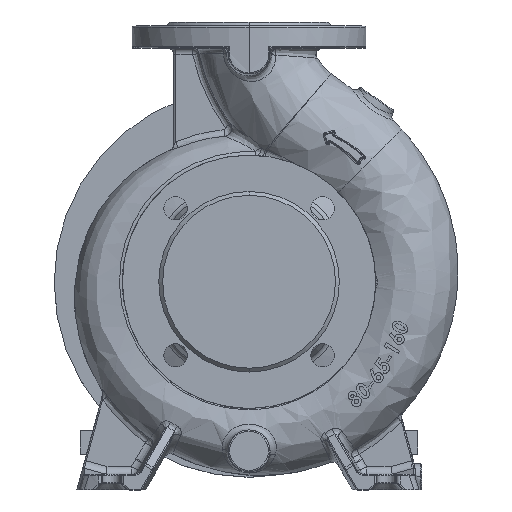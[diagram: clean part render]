
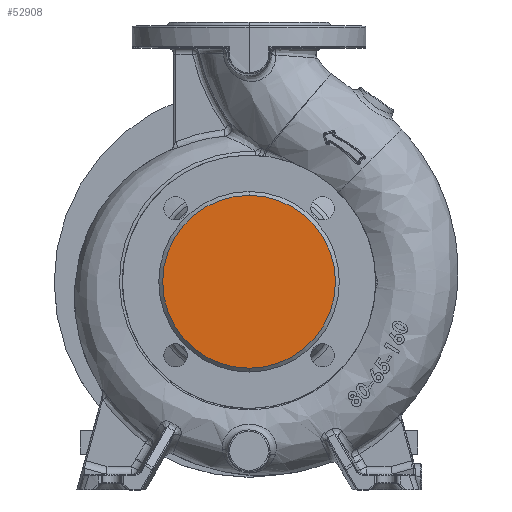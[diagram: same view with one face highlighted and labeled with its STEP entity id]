
A CAD part, top view. The second image highlights one B-rep face of the part: STEP entity #52908.
In plain terms, the highlighted planar face has unit normal (0, 0, 1).
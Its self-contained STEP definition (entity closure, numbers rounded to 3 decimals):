
#6398 = EDGE_CURVE ( 'NONE', #39030, #15525, #24929, .T. ) ;
#12544 = DIRECTION ( 'NONE',  ( 0., 0., -1. ) ) ;
#12766 = CARTESIAN_POINT ( 'NONE',  ( 0., 0., 100. ) ) ;
#13916 = CARTESIAN_POINT ( 'NONE',  ( 0., 66.5, 100. ) ) ;
#15473 = PLANE ( 'NONE',  #17838 ) ;
#15525 = VERTEX_POINT ( 'NONE', #13916 ) ;
#16115 = DIRECTION ( 'NONE',  ( 0., 0., -1. ) ) ;
#16501 = CIRCLE ( 'NONE', #20605, 66.5 ) ;
#17838 = AXIS2_PLACEMENT_3D ( 'NONE', #50142, #16115, #49929 ) ;
#20605 = AXIS2_PLACEMENT_3D ( 'NONE', #34547, #39389, #60127 ) ;
#23719 = AXIS2_PLACEMENT_3D ( 'NONE', #12766, #12544, #61645 ) ;
#24315 = FACE_OUTER_BOUND ( 'NONE', #45664, .T. ) ;
#24929 = CIRCLE ( 'NONE', #23719, 66.5 ) ;
#34547 = CARTESIAN_POINT ( 'NONE',  ( 0., 0., 100. ) ) ;
#37120 = ORIENTED_EDGE ( 'NONE', *, *, #37175, .F. ) ;
#37175 = EDGE_CURVE ( 'NONE', #15525, #39030, #16501, .T. ) ;
#39030 = VERTEX_POINT ( 'NONE', #51011 ) ;
#39389 = DIRECTION ( 'NONE',  ( 0., 0., -1. ) ) ;
#45664 = EDGE_LOOP ( 'NONE', ( #37120, #50206 ) ) ;
#49929 = DIRECTION ( 'NONE',  ( 0., 1., 0. ) ) ;
#50142 = CARTESIAN_POINT ( 'NONE',  ( 0., 0., 100. ) ) ;
#50206 = ORIENTED_EDGE ( 'NONE', *, *, #6398, .F. ) ;
#51011 = CARTESIAN_POINT ( 'NONE',  ( 0., -66.5, 100. ) ) ;
#52908 = ADVANCED_FACE ( 'NONE', ( #24315 ), #15473, .F. ) ;
#60127 = DIRECTION ( 'NONE',  ( 0., 1., 0. ) ) ;
#61645 = DIRECTION ( 'NONE',  ( 0., 1., 0. ) ) ;
